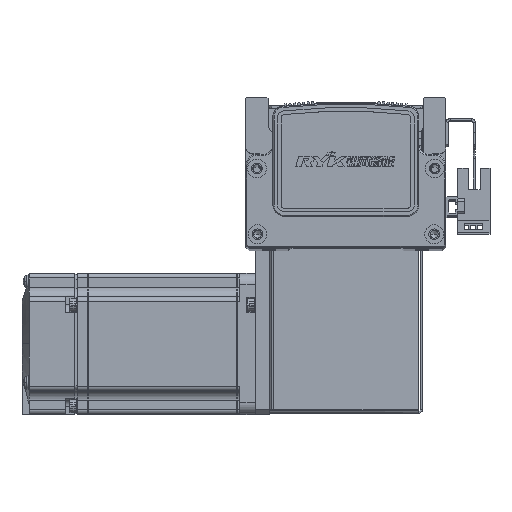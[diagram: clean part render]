
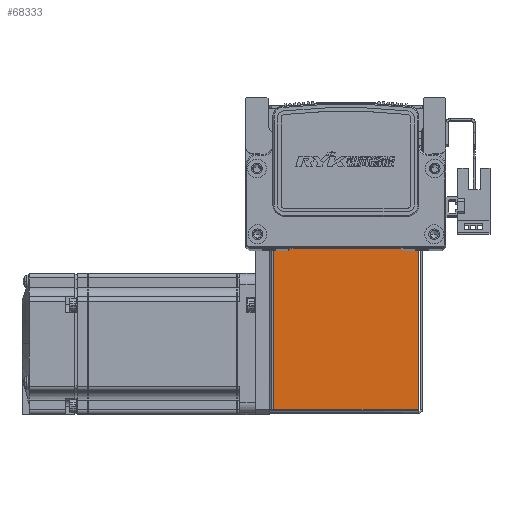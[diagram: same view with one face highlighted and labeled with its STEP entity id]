
A CAD part, top view. The second image highlights one B-rep face of the part: STEP entity #68333.
In plain terms, the highlighted planar face has unit normal (0, 0, 1) as drawn and (0, 0, -1) by its records, which use the part's own axes.
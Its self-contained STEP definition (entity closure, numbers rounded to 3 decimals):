
#6409 = DIRECTION ( 'NONE',  ( 0., -1., 0. ) ) ;
#6424 = PLANE ( 'NONE',  #27783 ) ;
#6433 = CARTESIAN_POINT ( 'NONE',  ( 0., 0., -35. ) ) ;
#6442 = DIRECTION ( 'NONE',  ( 0., 0., 1. ) ) ;
#9699 = ORIENTED_EDGE ( 'NONE', *, *, #20729, .F. ) ;
#9707 = ORIENTED_EDGE ( 'NONE', *, *, #20765, .T. ) ;
#9739 = ORIENTED_EDGE ( 'NONE', *, *, #20745, .T. ) ;
#9773 = ORIENTED_EDGE ( 'NONE', *, *, #20705, .T. ) ;
#10553 = VERTEX_POINT ( 'NONE', #40549 ) ;
#10589 = VERTEX_POINT ( 'NONE', #40604 ) ;
#10597 = VERTEX_POINT ( 'NONE', #40594 ) ;
#10606 = VERTEX_POINT ( 'NONE', #40593 ) ;
#20705 = EDGE_CURVE ( 'NONE', #10606, #10589, #69874, .T. ) ;
#20729 = EDGE_CURVE ( 'NONE', #10597, #10553, #69915, .T. ) ;
#20745 = EDGE_CURVE ( 'NONE', #10589, #10553, #69981, .T. ) ;
#20765 = EDGE_CURVE ( 'NONE', #10597, #10606, #69955, .T. ) ;
#25773 = EDGE_LOOP ( 'NONE', ( #9739, #9699, #9707, #9773 ) ) ;
#27783 = AXIS2_PLACEMENT_3D ( 'NONE', #6433, #6442, #6409 ) ;
#40549 = CARTESIAN_POINT ( 'NONE',  ( 30.763, 0.737, -35. ) ) ;
#40593 = CARTESIAN_POINT ( 'NONE',  ( -30.793, 72.5, -35. ) ) ;
#40594 = CARTESIAN_POINT ( 'NONE',  ( -30.793, 0.737, -35. ) ) ;
#40604 = CARTESIAN_POINT ( 'NONE',  ( 30.763, 72.5, -35. ) ) ;
#44293 = FACE_OUTER_BOUND ( 'NONE', #25773, .T. ) ;
#67765 = CARTESIAN_POINT ( 'NONE',  ( 32.5, 0.737, -35. ) ) ;
#67826 = CARTESIAN_POINT ( 'NONE',  ( 30.763, 72.5, -35. ) ) ;
#67838 = DIRECTION ( 'NONE',  ( 1., 0., 0. ) ) ;
#67870 = DIRECTION ( 'NONE',  ( 0., -1., 0. ) ) ;
#67945 = CARTESIAN_POINT ( 'NONE',  ( -30.793, 0., -35. ) ) ;
#68012 = DIRECTION ( 'NONE',  ( 0., 1., 0. ) ) ;
#68333 = ADVANCED_FACE ( 'NONE', ( #44293 ), #6424, .F. ) ;
#69859 = VECTOR ( 'NONE', #67838, 1000. ) ;
#69863 = VECTOR ( 'NONE', #70888, 1000. ) ;
#69874 = LINE ( 'NONE', #70880, #69863 ) ;
#69915 = LINE ( 'NONE', #67765, #69859 ) ;
#69955 = LINE ( 'NONE', #67945, #69956 ) ;
#69956 = VECTOR ( 'NONE', #68012, 1000. ) ;
#69977 = VECTOR ( 'NONE', #67870, 1000. ) ;
#69981 = LINE ( 'NONE', #67826, #69977 ) ;
#70880 = CARTESIAN_POINT ( 'NONE',  ( 0., 72.5, -35. ) ) ;
#70888 = DIRECTION ( 'NONE',  ( 1., 0., 0. ) ) ;
